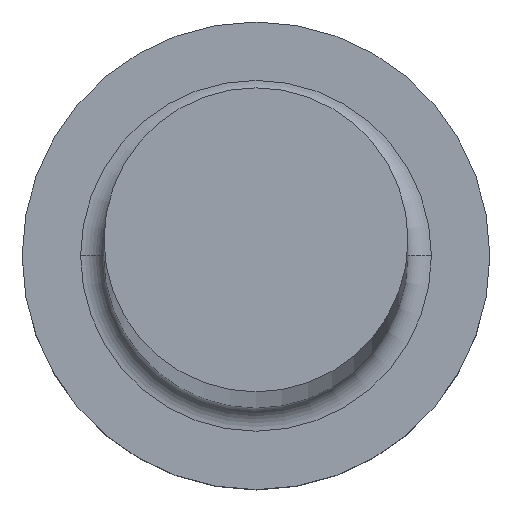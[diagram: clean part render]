
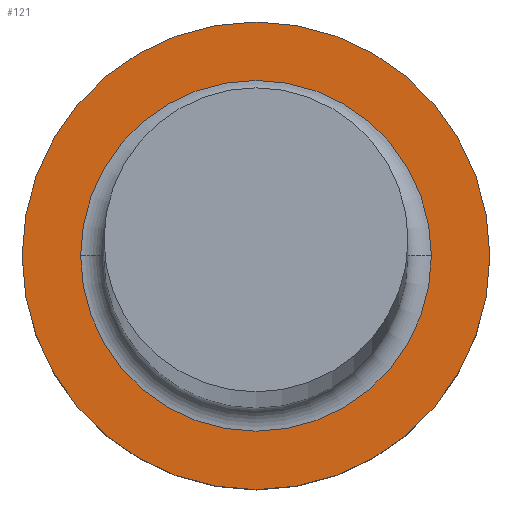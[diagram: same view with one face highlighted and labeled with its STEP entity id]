
A CAD part, top view. The second image highlights one B-rep face of the part: STEP entity #121.
In plain terms, the highlighted planar face has unit normal (0, 0, 1).
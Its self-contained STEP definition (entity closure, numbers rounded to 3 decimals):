
#1 = PLANE ( 'NONE',  #65 ) ;
#4 = DIRECTION ( 'NONE',  ( 0., 0., -1. ) ) ;
#17 = ORIENTED_EDGE ( 'NONE', *, *, #31, .T. ) ;
#31 = EDGE_CURVE ( 'NONE', #236, #223, #96, .T. ) ;
#34 = CARTESIAN_POINT ( 'NONE',  ( 0., 0., 4. ) ) ;
#36 = EDGE_CURVE ( 'NONE', #223, #236, #57, .T. ) ;
#48 = DIRECTION ( 'NONE',  ( -1., 0., 0. ) ) ;
#54 = DIRECTION ( 'NONE',  ( 0., 0., -1. ) ) ;
#57 = CIRCLE ( 'NONE', #192, 3.75 ) ;
#65 = AXIS2_PLACEMENT_3D ( 'NONE', #135, #4, #155 ) ;
#66 = CARTESIAN_POINT ( 'NONE',  ( 5., 0., 4. ) ) ;
#67 = VERTEX_POINT ( 'NONE', #66 ) ;
#68 = DIRECTION ( 'NONE',  ( 0., 0., -1. ) ) ;
#74 = CARTESIAN_POINT ( 'NONE',  ( 0., 0., 4. ) ) ;
#95 = FACE_OUTER_BOUND ( 'NONE', #159, .T. ) ;
#96 = CIRCLE ( 'NONE', #253, 3.75 ) ;
#100 = EDGE_CURVE ( 'NONE', #250, #67, #164, .T. ) ;
#108 = DIRECTION ( 'NONE',  ( -1., 0., 0. ) ) ;
#109 = ORIENTED_EDGE ( 'NONE', *, *, #36, .T. ) ;
#118 = CARTESIAN_POINT ( 'NONE',  ( 3.75, 0., 4. ) ) ;
#121 = ADVANCED_FACE ( 'NONE', ( #182, #95 ), #1, .F. ) ;
#133 = CARTESIAN_POINT ( 'NONE',  ( 0., 0., 4. ) ) ;
#135 = CARTESIAN_POINT ( 'NONE',  ( 5., 0., 4. ) ) ;
#139 = EDGE_LOOP ( 'NONE', ( #17, #109 ) ) ;
#155 = DIRECTION ( 'NONE',  ( -1., 0., 0. ) ) ;
#159 = EDGE_LOOP ( 'NONE', ( #245, #242 ) ) ;
#162 = AXIS2_PLACEMENT_3D ( 'NONE', #74, #232, #48 ) ;
#164 = CIRCLE ( 'NONE', #162, 5. ) ;
#169 = DIRECTION ( 'NONE',  ( -1., 0., 0. ) ) ;
#175 = DIRECTION ( 'NONE',  ( -1., 0., 0. ) ) ;
#176 = AXIS2_PLACEMENT_3D ( 'NONE', #34, #54, #175 ) ;
#179 = CARTESIAN_POINT ( 'NONE',  ( -3.75, 0., 4. ) ) ;
#182 = FACE_BOUND ( 'NONE', #139, .T. ) ;
#192 = AXIS2_PLACEMENT_3D ( 'NONE', #133, #247, #169 ) ;
#202 = CIRCLE ( 'NONE', #176, 5. ) ;
#221 = EDGE_CURVE ( 'NONE', #67, #250, #202, .T. ) ;
#223 = VERTEX_POINT ( 'NONE', #118 ) ;
#228 = CARTESIAN_POINT ( 'NONE',  ( 0., 0., 4. ) ) ;
#232 = DIRECTION ( 'NONE',  ( 0., 0., -1. ) ) ;
#236 = VERTEX_POINT ( 'NONE', #179 ) ;
#242 = ORIENTED_EDGE ( 'NONE', *, *, #221, .F. ) ;
#245 = ORIENTED_EDGE ( 'NONE', *, *, #100, .F. ) ;
#247 = DIRECTION ( 'NONE',  ( 0., 0., -1. ) ) ;
#250 = VERTEX_POINT ( 'NONE', #256 ) ;
#253 = AXIS2_PLACEMENT_3D ( 'NONE', #228, #68, #108 ) ;
#256 = CARTESIAN_POINT ( 'NONE',  ( -5., 0., 4. ) ) ;
